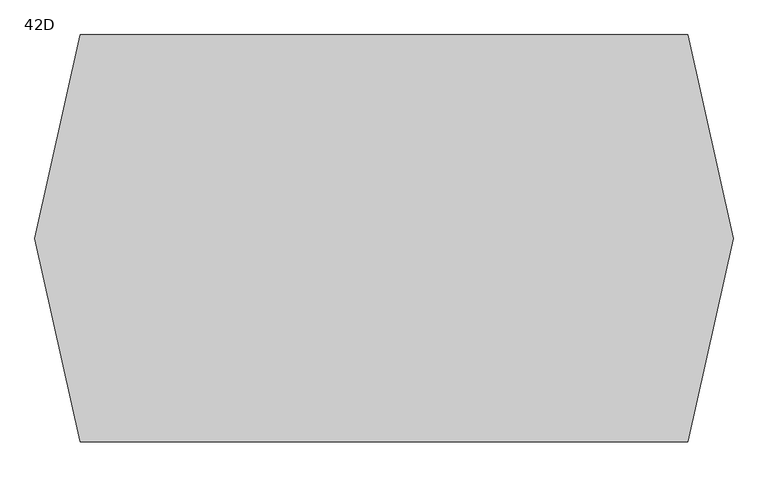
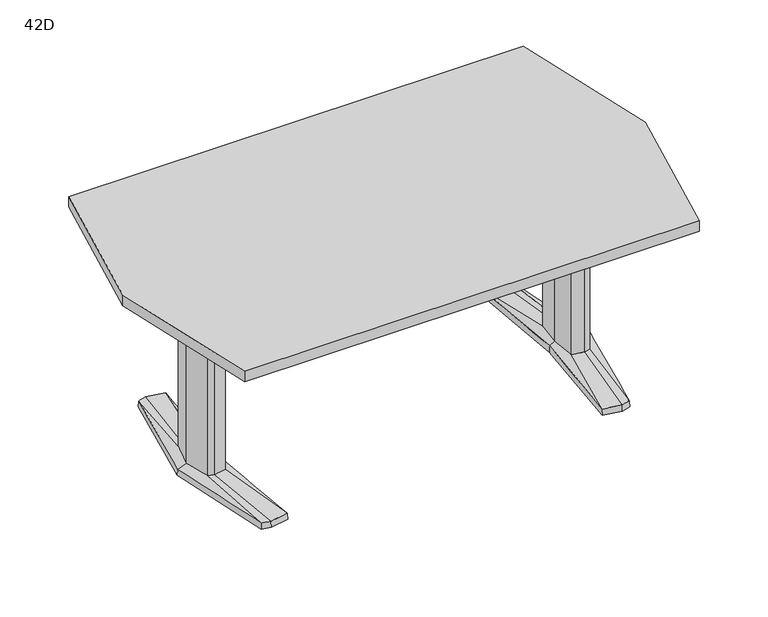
"""IFC4 building model written with IfcOpenShell, lengths in millimetres: furniture geometry, Coalesse_AM_Table_Conference_ETable2_Faceted_72in_AluminiumBase : 42D."""

from ifc_helpers import new_model, si_unit, frame, origin, place, context, project, spatial, polyline, outline, extrude, source, transform, mapped, element, save
from ifc_brep_helpers import plane_surface, spline_surface, advanced_brep


def furniture_42d_39f42cd1(model_context):
    return source(origin(), model_context, "Body", "SolidModel", [
        advanced_brep(
        [(614.8503471, -379.3768856, 25.4), (644.5756636, -371.5332654, 25.4), (668.2327243, -89.293702, 36.5125), (648.9795254, -94.605478, 36.5125), (606.0521001, -87.0529327, 36.5125), (551.7612538, -368.5071562, 25.4), (597.9364207, 0.0, 36.5125), (579.8389754, 0.3970149, 25.4), (606.0521001, 87.0529327, 36.5125), (551.7615002, 368.5172593, 25.4), (648.9795254, 94.605478, 36.5125), (614.8502233, 379.3769183, 25.4), (668.2327243, 89.293702, 36.5125), (644.7535458, 371.4863276, 25.4), (692.1595251, 0.0, 36.5125), (721.4851663, 0.0003516, 25.4), (578.2468742, 0.3968871, 3.175), (550.06875, 369.8367279, 3.175), (614.9213004, 381.0, 3.175), (646.1093245, 372.7704151, 3.175), (723.10625, 0.0, 3.175), (645.9309817, -372.8174744, 3.175), (614.9213004, -381.0, 3.175), (550.06875, -369.8264415, 3.175), (649.5979264, 107.6121478, 3.175), (594.3065451, 97.8843184, 3.175), (585.1810887, 0.0, 3.175), (594.3065451, -97.8843184, 3.175), (649.5979264, -107.6121478, 3.175), (678.6183473, -99.6056872, 3.175), (705.3083085, 0.0, 3.175), (678.6183473, 99.6056872, 3.175), (613.4286812, 346.9152841, 3.175), (557.7811371, 337.3364985, 3.175), (560.1889918, 324.8641942, 3.175), (612.8600644, 333.9306305, 3.175), (648.6725609, 324.4807859, 3.175), (647.5544526, 337.9105158, 3.175), (613.4286812, -346.9152841, 3.175), (647.5544526, -337.9105158, 3.175), (648.6725609, -324.4807859, 3.175), (612.8600644, -333.9306305, 3.175), (560.1889918, -324.8641942, 3.175), (557.7811371, -337.3364985, 3.175), (649.5979264, 107.6121478, 0.0), (678.6183473, 99.6056872, 0.0), (705.3083085, 0.0, 0.0), (678.6183473, -99.6056872, 0.0), (649.5979264, -107.6121478, 0.0), (594.3065451, -97.8843184, 0.0), (585.1810887, 0.0, 0.0), (594.3065451, 97.8843184, 0.0), (613.4286812, 346.9152841, 0.0), (647.5544526, 337.9105158, 0.0), (648.6725609, 324.4807859, 0.0), (612.8600644, 333.9306305, 0.0), (560.1889918, 324.8641942, 0.0), (557.7811371, 337.3364985, 0.0), (613.4286812, -346.9152841, 0.0), (557.7811371, -337.3364985, 0.0), (560.1889918, -324.8641942, 0.0), (612.8600644, -333.9306305, 0.0), (648.6725609, -324.4807859, 0.0), (647.5544526, -337.9105158, 0.0), (668.2327243, 89.293702, 698.5), (648.9795254, 94.605478, 698.5), (606.0521001, 87.0529327, 698.5), (597.9364207, 0.0, 698.5), (606.0521001, -87.0529327, 698.5), (648.9795254, -94.605478, 698.5), (668.2327243, -89.293702, 698.5), (692.1595251, 0.0, 698.5)],
        [
            (0, 1),
            (1, 2),
            (2, 3),
            (3, 0),
            (3, 4),
            (4, 5),
            (5, 0),
            (4, 6),
            (6, 7),
            (7, 5),
            (6, 8),
            (8, 9),
            (9, 7),
            (8, 10),
            (10, 11),
            (11, 9),
            (10, 12),
            (12, 13),
            (13, 11),
            (12, 14),
            (14, 15),
            (15, 13),
            (1, 15),
            (14, 2),
            (16, 17),
            (17, 18),
            (18, 19),
            (19, 20),
            (20, 21),
            (21, 22),
            (22, 23),
            (23, 16),
            (24, 25),
            (25, 26),
            (26, 27),
            (27, 28),
            (28, 29),
            (29, 30),
            (30, 31),
            (31, 24),
            (32, 33),
            (33, 34),
            (34, 35),
            (35, 36),
            (36, 37),
            (37, 32),
            (38, 39),
            (39, 40),
            (40, 41),
            (41, 42),
            (42, 43),
            (43, 38),
            (16, 7),
            (9, 17),
            (11, 18),
            (13, 19),
            (15, 20),
            (1, 21),
            (0, 22),
            (5, 23),
            (44, 45),
            (45, 46),
            (46, 47),
            (47, 48),
            (48, 49),
            (49, 50),
            (50, 51),
            (51, 44),
            (52, 53),
            (53, 54),
            (54, 55),
            (55, 56),
            (56, 57),
            (57, 52),
            (58, 59),
            (59, 60),
            (60, 61),
            (61, 62),
            (62, 63),
            (63, 58),
            (44, 24),
            (31, 45),
            (30, 46),
            (29, 47),
            (28, 48),
            (27, 49),
            (26, 50),
            (25, 51),
            (52, 32),
            (37, 53),
            (36, 54),
            (35, 55),
            (34, 56),
            (33, 57),
            (58, 38),
            (43, 59),
            (42, 60),
            (41, 61),
            (40, 62),
            (39, 63),
            (64, 65),
            (65, 66),
            (66, 67),
            (67, 68),
            (68, 69),
            (69, 70),
            (70, 71),
            (71, 64),
            (71, 14),
            (12, 64),
            (70, 2),
            (69, 3),
            (68, 4),
            (67, 6),
            (66, 8),
            (65, 10),
        ],
        [
            spline_surface(1, 1, [[(644.5756636, -371.5332654, 25.4), (614.8503471, -379.3768856, 25.4)], [(668.2327243, -89.293702, 36.5125), (648.9795254, -94.605478, 36.5125)]], [2, 2], [2, 2], [0.0, 1.0], [0.0, 1.0]),
            spline_surface(1, 1, [[(614.8503471, -379.3768856, 25.4), (551.7612538, -368.5071562, 25.4)], [(648.9795254, -94.605478, 36.5125), (606.0521001, -87.0529327, 36.5125)]], [2, 2], [2, 2], [0.0, 1.0], [0.0, 1.0]),
            spline_surface(1, 1, [[(551.7612538, -368.5071562, 25.4), (579.8389754, 0.3970149, 25.4)], [(606.0521001, -87.0529327, 36.5125), (597.9364207, 0.0, 36.5125)]], [2, 2], [2, 2], [0.0, 1.0], [0.0, 1.0]),
            spline_surface(1, 1, [[(579.8389754, 0.3970149, 25.4), (551.7615002, 368.5172593, 25.4)], [(597.9364207, 0.0, 36.5125), (606.0521001, 87.0529327, 36.5125)]], [2, 2], [2, 2], [0.0, 1.0], [0.0, 1.0]),
            spline_surface(1, 1, [[(551.7615002, 368.5172593, 25.4), (614.8502233, 379.3769183, 25.4)], [(606.0521001, 87.0529327, 36.5125), (648.9795254, 94.605478, 36.5125)]], [2, 2], [2, 2], [0.0, 1.0], [0.0, 1.0]),
            spline_surface(1, 1, [[(614.8502233, 379.3769183, 25.4), (644.7535458, 371.4863276, 25.4)], [(648.9795254, 94.605478, 36.5125), (668.2327243, 89.293702, 36.5125)]], [2, 2], [2, 2], [0.0, 1.0], [0.0, 1.0]),
            spline_surface(1, 1, [[(644.7535458, 371.4863276, 25.4), (721.4851663, 0.0003516, 25.4)], [(668.2327243, 89.293702, 36.5125), (692.1595251, 0.0, 36.5125)]], [2, 2], [2, 2], [0.0, 1.0], [0.0, 1.0]),
            spline_surface(1, 1, [[(721.4851663, 0.0003516, 25.4), (644.5756636, -371.5332654, 25.4)], [(692.1595251, 0.0, 36.5125), (668.2327243, -89.293702, 36.5125)]], [2, 2], [2, 2], [0.0, 1.0], [0.0, 1.0]),
            plane_surface(frame((615.4216914, 0.0450143, 3.175), z_axis=(0.0, 0.0, -1.0), x_axis=(-0.9669048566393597, -0.2551372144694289, 0.0))),
            plane_surface(frame((564.1578121, 185.1168075, 3.175), z_axis=(-0.9945699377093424, -0.07585840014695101, 0.0712470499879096), x_axis=(-0.07605167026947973, 0.9971038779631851, 0.0))),
            plane_surface(frame((582.4950252, 375.418364, 3.175), z_axis=(-0.1692071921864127, 0.9830019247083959, 0.07124704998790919), x_axis=(0.985506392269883, 0.16963829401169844, 0.0))),
            plane_surface(frame((630.5153124, 376.8852076, 3.175), z_axis=(0.2544888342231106, 0.9644476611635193, 0.07124704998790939), x_axis=(0.9669048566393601, -0.25513721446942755, 0.0))),
            plane_surface(frame((684.6077872, 186.3852076, 3.175), z_axis=(0.9768383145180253, 0.2017690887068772, 0.07124704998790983), x_axis=(0.20228315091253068, -0.9793270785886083, 0.0))),
            plane_surface(frame((684.5186158, -186.4087372, 3.175), z_axis=(0.9767507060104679, -0.20219276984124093, 0.07124704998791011), x_axis=(-0.2027079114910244, -0.9792392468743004, 0.0))),
            plane_surface(frame((630.426141, -376.9087372, 3.175), z_axis=(0.2544888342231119, -0.9644476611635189, 0.0712470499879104), x_axis=(-0.9669048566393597, -0.2551372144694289, 0.0))),
            plane_surface(frame((582.4950252, -375.4132207, 3.175), z_axis=(-0.16935861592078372, -0.982975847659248, 0.07124704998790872), x_axis=(-0.9854802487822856, 0.16979010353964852, 0.0))),
            plane_surface(frame((564.1578121, -184.7147772, 3.175), z_axis=(-0.9945820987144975, 0.07569878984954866, 0.07124704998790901), x_axis=(0.07589165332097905, 0.9971160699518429, 0.0))),
            plane_surface(frame((652.3571479, 106.8509046, 0.0), z_axis=(0.0, 0.0, -1.0000000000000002), x_axis=(-0.9639855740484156, 0.26595453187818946, 0.0))),
            plane_surface(frame((649.5979264, 107.6121478, 3.175), z_axis=(0.26595453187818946, 0.9639855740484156, 0.0), x_axis=(0.0, 0.0, -1.0))),
            plane_surface(frame((678.6183473, 99.6056872, 3.175), z_axis=(0.9659241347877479, 0.2588253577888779, 0.0), x_axis=(0.0, 0.0, -1.0))),
            plane_surface(frame((705.3083085, 0.0, 3.175), z_axis=(0.9659241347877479, -0.2588253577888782, 0.0), x_axis=(0.0, 0.0, -1.0))),
            plane_surface(frame((678.6183473, -99.6056872, 3.175), z_axis=(0.26595453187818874, -0.9639855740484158, 0.0), x_axis=(0.0, 0.0, -1.0))),
            plane_surface(frame((649.5979264, -107.6121478, 3.175), z_axis=(-0.17327617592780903, -0.9848732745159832, 0.0), x_axis=(0.0, 0.0, -1.0))),
            plane_surface(frame((594.3065451, -97.8843184, 3.175), z_axis=(-0.9956824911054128, -0.0928244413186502, 0.0), x_axis=(0.0, 0.0, -1.0))),
            plane_surface(frame((585.1810887, 0.0, 3.175), z_axis=(-0.9956824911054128, 0.09282444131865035, 0.0), x_axis=(0.0, 0.0, -1.0))),
            plane_surface(frame((594.3065451, 97.8843184, 3.175), z_axis=(-0.17327617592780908, 0.984873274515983, 0.0), x_axis=(0.0, 0.0, -1.0))),
            plane_surface(frame((613.4286812, 346.9152841, 3.175), z_axis=(0.25513721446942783, 0.9669048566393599, 0.0), x_axis=(0.0, 0.0, -1.0))),
            plane_surface(frame((647.5544526, 337.9105158, 3.175), z_axis=(0.9965521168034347, 0.0829691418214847, 0.0), x_axis=(0.0, 0.0, -1.0))),
            plane_surface(frame((648.6725609, 324.4807859, 3.175), z_axis=(-0.25513721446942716, -0.9669048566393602, 0.0), x_axis=(0.0, 0.0, -1.0))),
            plane_surface(frame((612.8600644, 333.9306305, 3.175), z_axis=(0.16963829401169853, -0.985506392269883, 0.0), x_axis=(0.0, 0.0, -1.0))),
            plane_surface(frame((560.1889918, 324.8641942, 3.175), z_axis=(-0.9818699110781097, -0.18955600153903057, 0.0), x_axis=(0.0, 0.0, -1.0))),
            plane_surface(frame((557.7811371, 337.3364985, 3.175), z_axis=(-0.16963829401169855, 0.9855063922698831, 0.0), x_axis=(0.0, 0.0, -1.0))),
            plane_surface(frame((613.4286812, -346.9152841, 3.175), z_axis=(-0.1696382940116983, -0.9855063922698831, 0.0), x_axis=(0.0, 0.0, -1.0))),
            plane_surface(frame((557.7811371, -337.3364985, 3.175), z_axis=(-0.9818699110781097, 0.18955600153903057, 0.0), x_axis=(0.0, 0.0, -1.0))),
            plane_surface(frame((560.1889918, -324.8641942, 3.175), z_axis=(0.16963829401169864, 0.985506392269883, 0.0), x_axis=(0.0, 0.0, -1.0))),
            plane_surface(frame((612.8600644, -333.9306305, 3.175), z_axis=(-0.2551372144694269, 0.9669048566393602, 0.0), x_axis=(0.0, 0.0, -1.0))),
            plane_surface(frame((648.6725609, -324.4807859, 3.175), z_axis=(0.9965521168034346, -0.0829691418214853, 0.0), x_axis=(0.0, 0.0, -1.0))),
            plane_surface(frame((647.5544526, -337.9105158, 3.175), z_axis=(0.2551372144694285, -0.9669048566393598, 0.0), x_axis=(0.0, 0.0, -1.0))),
            plane_surface(frame((692.1595251, 0.0, 698.5), z_axis=(0.0, 0.0, 1.0), x_axis=(0.25882535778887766, -0.965924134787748, 0.0))),
            plane_surface(frame((668.2327243, 89.293702, 698.5), z_axis=(0.965924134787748, 0.25882535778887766, 0.0), x_axis=(0.0, 0.0, -1.0))),
            plane_surface(frame((692.1595251, 0.0, 698.5), z_axis=(0.965924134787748, -0.2588253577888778, 0.0), x_axis=(0.0, 0.0, -1.0))),
            plane_surface(frame((668.2327243, -89.293702, 698.5), z_axis=(0.2659545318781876, -0.963985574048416, 0.0), x_axis=(0.0, 0.0, -1.0))),
            plane_surface(frame((648.9795254, -94.605478, 698.5), z_axis=(-0.1732761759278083, -0.9848732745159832, 0.0), x_axis=(0.0, 0.0, -1.0))),
            plane_surface(frame((606.0521001, -87.0529327, 698.5), z_axis=(-0.9956824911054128, -0.0928244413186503, 0.0), x_axis=(0.0, 0.0, -1.0))),
            plane_surface(frame((597.9364207, 0.0, 698.5), z_axis=(-0.9956824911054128, 0.09282444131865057, 0.0), x_axis=(0.0, 0.0, -1.0))),
            plane_surface(frame((606.0521001, 87.0529327, 698.5), z_axis=(-0.17327617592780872, 0.9848732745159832, 0.0), x_axis=(0.0, 0.0, -1.0))),
            plane_surface(frame((648.9795254, 94.605478, 698.5), z_axis=(0.26595453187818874, 0.9639855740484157, 0.0), x_axis=(0.0, 0.0, -1.0))),
        ],
        [
            (0, [[1, 2, 3, 4]]),
            (1, [[5, 6, 7, -4]]),
            (2, [[8, 9, 10, -6]]),
            (3, [[11, 12, 13, -9]]),
            (4, [[14, 15, 16, -12]]),
            (5, [[17, 18, 19, -15]]),
            (6, [[20, 21, 22, -18]]),
            (7, [[23, -21, 24, -2]]),
            (8, [[25, 26, 27, 28, 29, 30, 31, 32], [33, 34, 35, 36, 37, 38, 39, 40], [41, 42, 43, 44, 45, 46], [47, 48, 49, 50, 51, 52]]),
            (9, [[53, -13, 54, -25]]),
            (10, [[-54, -16, 55, -26]]),
            (11, [[-55, -19, 56, -27]]),
            (12, [[-56, -22, 57, -28]]),
            (13, [[-57, -23, 58, -29]]),
            (14, [[-58, -1, 59, -30]]),
            (15, [[-59, -7, 60, -31]]),
            (16, [[-60, -10, -53, -32]]),
            (17, [[61, 62, 63, 64, 65, 66, 67, 68]]),
            (17, [[69, 70, 71, 72, 73, 74]]),
            (17, [[75, 76, 77, 78, 79, 80]]),
            (18, [[81, -40, 82, -61]]),
            (19, [[-82, -39, 83, -62]]),
            (20, [[-83, -38, 84, -63]]),
            (21, [[-84, -37, 85, -64]]),
            (22, [[-85, -36, 86, -65]]),
            (23, [[-86, -35, 87, -66]]),
            (24, [[-87, -34, 88, -67]]),
            (25, [[-88, -33, -81, -68]]),
            (26, [[89, -46, 90, -69]]),
            (27, [[-90, -45, 91, -70]]),
            (28, [[-91, -44, 92, -71]]),
            (29, [[-92, -43, 93, -72]]),
            (30, [[-93, -42, 94, -73]]),
            (31, [[-94, -41, -89, -74]]),
            (32, [[95, -52, 96, -75]]),
            (33, [[-96, -51, 97, -76]]),
            (34, [[-97, -50, 98, -77]]),
            (35, [[-98, -49, 99, -78]]),
            (36, [[-99, -48, 100, -79]]),
            (37, [[-100, -47, -95, -80]]),
            (38, [[101, 102, 103, 104, 105, 106, 107, 108]]),
            (39, [[109, -20, 110, -108]]),
            (40, [[111, -24, -109, -107]]),
            (41, [[112, -3, -111, -106]]),
            (42, [[113, -5, -112, -105]]),
            (43, [[114, -8, -113, -104]]),
            (44, [[115, -11, -114, -103]]),
            (45, [[116, -14, -115, -102]]),
            (46, [[-110, -17, -116, -101]]),
        ],
    ),
        advanced_brep(
        [(-614.8503471, -379.3768856, 25.4), (-648.9795254, -94.605478, 36.5125), (-668.2327243, -89.293702, 36.5125), (-644.5756636, -371.5332654, 25.4), (-551.7612538, -368.5071562, 25.4), (-606.0521001, -87.0529327, 36.5125), (-579.8389754, 0.3970149, 25.4), (-597.9364207, 0.0, 36.5125), (-551.7615002, 368.5172593, 25.4), (-606.0521001, 87.0529327, 36.5125), (-614.8502233, 379.3769183, 25.4), (-648.9795254, 94.605478, 36.5125), (-644.7535458, 371.4863276, 25.4), (-668.2327243, 89.293702, 36.5125), (-721.4851663, 0.0003516, 25.4), (-692.1595251, 0.0, 36.5125), (-578.2468742, 0.3968871, 3.175), (-550.06875, -369.8264415, 3.175), (-614.9213004, -381.0, 3.175), (-645.9309817, -372.8174744, 3.175), (-723.10625, 0.0, 3.175), (-646.1093245, 372.7704151, 3.175), (-614.9213004, 381.0, 3.175), (-550.06875, 369.8367279, 3.175), (-649.5979264, 107.6121478, 3.175), (-678.6183473, 99.6056872, 3.175), (-705.3083085, 0.0, 3.175), (-678.6183473, -99.6056872, 3.175), (-649.5979264, -107.6121478, 3.175), (-594.3065451, -97.8843184, 3.175), (-585.1810887, 0.0, 3.175), (-594.3065451, 97.8843184, 3.175), (-613.4286812, 346.9152841, 3.175), (-647.5544526, 337.9105158, 3.175), (-648.6725609, 324.4807859, 3.175), (-612.8600644, 333.9306305, 3.175), (-560.1889918, 324.8641942, 3.175), (-557.7811371, 337.3364985, 3.175), (-613.4286812, -346.9152841, 3.175), (-557.7811371, -337.3364985, 3.175), (-560.1889918, -324.8641942, 3.175), (-612.8600644, -333.9306305, 3.175), (-648.6725609, -324.4807859, 3.175), (-647.5544526, -337.9105158, 3.175), (-649.5979264, 107.6121478, 0.0), (-594.3065451, 97.8843184, 0.0), (-585.1810887, 0.0, 0.0), (-594.3065451, -97.8843184, 0.0), (-649.5979264, -107.6121478, 0.0), (-678.6183473, -99.6056872, 0.0), (-705.3083085, 0.0, 0.0), (-678.6183473, 99.6056872, 0.0), (-613.4286812, 346.9152841, 0.0), (-557.7811371, 337.3364985, 0.0), (-560.1889918, 324.8641942, 0.0), (-612.8600644, 333.9306305, 0.0), (-648.6725609, 324.4807859, 0.0), (-647.5544526, 337.9105158, 0.0), (-613.4286812, -346.9152841, 0.0), (-647.5544526, -337.9105158, 0.0), (-648.6725609, -324.4807859, 0.0), (-612.8600644, -333.9306305, 0.0), (-560.1889918, -324.8641942, 0.0), (-557.7811371, -337.3364985, 0.0), (-668.2327243, 89.293702, 698.5), (-692.1595251, 0.0, 698.5), (-668.2327243, -89.293702, 698.5), (-648.9795254, -94.605478, 698.5), (-606.0521001, -87.0529327, 698.5), (-597.9364207, 0.0, 698.5), (-606.0521001, 87.0529327, 698.5), (-648.9795254, 94.605478, 698.5)],
        [
            (0, 1),
            (1, 2),
            (2, 3),
            (3, 0),
            (0, 4),
            (4, 5),
            (5, 1),
            (4, 6),
            (6, 7),
            (7, 5),
            (6, 8),
            (8, 9),
            (9, 7),
            (8, 10),
            (10, 11),
            (11, 9),
            (10, 12),
            (12, 13),
            (13, 11),
            (12, 14),
            (14, 15),
            (15, 13),
            (2, 15),
            (14, 3),
            (16, 17),
            (17, 18),
            (18, 19),
            (19, 20),
            (20, 21),
            (21, 22),
            (22, 23),
            (23, 16),
            (24, 25),
            (25, 26),
            (26, 27),
            (27, 28),
            (28, 29),
            (29, 30),
            (30, 31),
            (31, 24),
            (32, 33),
            (33, 34),
            (34, 35),
            (35, 36),
            (36, 37),
            (37, 32),
            (38, 39),
            (39, 40),
            (40, 41),
            (41, 42),
            (42, 43),
            (43, 38),
            (23, 8),
            (6, 16),
            (22, 10),
            (21, 12),
            (20, 14),
            (19, 3),
            (18, 0),
            (17, 4),
            (44, 45),
            (45, 46),
            (46, 47),
            (47, 48),
            (48, 49),
            (49, 50),
            (50, 51),
            (51, 44),
            (52, 53),
            (53, 54),
            (54, 55),
            (55, 56),
            (56, 57),
            (57, 52),
            (58, 59),
            (59, 60),
            (60, 61),
            (61, 62),
            (62, 63),
            (63, 58),
            (51, 25),
            (24, 44),
            (50, 26),
            (49, 27),
            (48, 28),
            (47, 29),
            (46, 30),
            (45, 31),
            (57, 33),
            (32, 52),
            (56, 34),
            (55, 35),
            (54, 36),
            (53, 37),
            (63, 39),
            (38, 58),
            (62, 40),
            (61, 41),
            (60, 42),
            (59, 43),
            (64, 65),
            (65, 66),
            (66, 67),
            (67, 68),
            (68, 69),
            (69, 70),
            (70, 71),
            (71, 64),
            (64, 13),
            (15, 65),
            (2, 66),
            (1, 67),
            (5, 68),
            (7, 69),
            (9, 70),
            (11, 71),
        ],
        [
            spline_surface(1, 1, [[(-644.5756636, -371.5332654, 25.4), (-668.2327243, -89.293702, 36.5125)], [(-614.8503471, -379.3768856, 25.4), (-648.9795254, -94.605478, 36.5125)]], [2, 2], [2, 2], [0.0, 1.0], [0.0, 1.0]),
            spline_surface(1, 1, [[(-614.8503471, -379.3768856, 25.4), (-648.9795254, -94.605478, 36.5125)], [(-551.7612538, -368.5071562, 25.4), (-606.0521001, -87.0529327, 36.5125)]], [2, 2], [2, 2], [0.0, 1.0], [0.0, 1.0]),
            spline_surface(1, 1, [[(-551.7612538, -368.5071562, 25.4), (-606.0521001, -87.0529327, 36.5125)], [(-579.8389754, 0.3970149, 25.4), (-597.9364207, 0.0, 36.5125)]], [2, 2], [2, 2], [0.0, 1.0], [0.0, 1.0]),
            spline_surface(1, 1, [[(-579.8389754, 0.3970149, 25.4), (-597.9364207, 0.0, 36.5125)], [(-551.7615002, 368.5172593, 25.4), (-606.0521001, 87.0529327, 36.5125)]], [2, 2], [2, 2], [0.0, 1.0], [0.0, 1.0]),
            spline_surface(1, 1, [[(-551.7615002, 368.5172593, 25.4), (-606.0521001, 87.0529327, 36.5125)], [(-614.8502233, 379.3769183, 25.4), (-648.9795254, 94.605478, 36.5125)]], [2, 2], [2, 2], [0.0, 1.0], [0.0, 1.0]),
            spline_surface(1, 1, [[(-614.8502233, 379.3769183, 25.4), (-648.9795254, 94.605478, 36.5125)], [(-644.7535458, 371.4863276, 25.4), (-668.2327243, 89.293702, 36.5125)]], [2, 2], [2, 2], [0.0, 1.0], [0.0, 1.0]),
            spline_surface(1, 1, [[(-644.7535458, 371.4863276, 25.4), (-668.2327243, 89.293702, 36.5125)], [(-721.4851663, 0.0003516, 25.4), (-692.1595251, 0.0, 36.5125)]], [2, 2], [2, 2], [0.0, 1.0], [0.0, 1.0]),
            spline_surface(1, 1, [[(-721.4851663, 0.0003516, 25.4), (-692.1595251, 0.0, 36.5125)], [(-644.5756636, -371.5332654, 25.4), (-668.2327243, -89.293702, 36.5125)]], [2, 2], [2, 2], [0.0, 1.0], [0.0, 1.0]),
            plane_surface(frame((-615.4216914, 0.0450143, 3.175), z_axis=(0.0, 0.0, -1.0), x_axis=(0.9669048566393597, -0.2551372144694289, 0.0))),
            plane_surface(frame((-564.1578121, 185.1168075, 3.175), z_axis=(0.9945699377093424, -0.07585840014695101, 0.0712470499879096), x_axis=(0.07605167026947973, 0.9971038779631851, 0.0))),
            plane_surface(frame((-582.4950252, 375.418364, 3.175), z_axis=(0.1692071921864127, 0.9830019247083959, 0.07124704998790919), x_axis=(-0.985506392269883, 0.16963829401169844, 0.0))),
            plane_surface(frame((-630.5153124, 376.8852076, 3.175), z_axis=(-0.2544888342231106, 0.9644476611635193, 0.07124704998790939), x_axis=(-0.9669048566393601, -0.25513721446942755, 0.0))),
            plane_surface(frame((-684.6077872, 186.3852076, 3.175), z_axis=(-0.9768383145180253, 0.2017690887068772, 0.07124704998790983), x_axis=(-0.20228315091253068, -0.9793270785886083, 0.0))),
            plane_surface(frame((-684.5186158, -186.4087372, 3.175), z_axis=(-0.9767507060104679, -0.20219276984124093, 0.07124704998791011), x_axis=(0.2027079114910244, -0.9792392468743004, 0.0))),
            plane_surface(frame((-630.426141, -376.9087372, 3.175), z_axis=(-0.2544888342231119, -0.9644476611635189, 0.0712470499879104), x_axis=(0.9669048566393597, -0.2551372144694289, 0.0))),
            plane_surface(frame((-582.4950252, -375.4132207, 3.175), z_axis=(0.16935861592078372, -0.982975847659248, 0.07124704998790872), x_axis=(0.9854802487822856, 0.16979010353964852, 0.0))),
            plane_surface(frame((-564.1578121, -184.7147772, 3.175), z_axis=(0.9945820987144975, 0.07569878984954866, 0.07124704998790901), x_axis=(-0.07589165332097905, 0.9971160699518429, 0.0))),
            plane_surface(frame((-652.3571479, 106.8509046, 0.0), z_axis=(0.0, 0.0, -1.0000000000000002), x_axis=(0.9639855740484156, 0.26595453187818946, 0.0))),
            plane_surface(frame((-649.5979264, 107.6121478, 3.175), z_axis=(-0.26595453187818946, 0.9639855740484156, 0.0), x_axis=(0.0, 0.0, -1.0))),
            plane_surface(frame((-678.6183473, 99.6056872, 3.175), z_axis=(-0.9659241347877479, 0.2588253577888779, 0.0), x_axis=(0.0, 0.0, -1.0))),
            plane_surface(frame((-705.3083085, 0.0, 3.175), z_axis=(-0.9659241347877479, -0.2588253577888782, 0.0), x_axis=(0.0, 0.0, -1.0))),
            plane_surface(frame((-678.6183473, -99.6056872, 3.175), z_axis=(-0.26595453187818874, -0.9639855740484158, 0.0), x_axis=(0.0, 0.0, -1.0))),
            plane_surface(frame((-649.5979264, -107.6121478, 3.175), z_axis=(0.17327617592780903, -0.9848732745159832, 0.0), x_axis=(0.0, 0.0, -1.0))),
            plane_surface(frame((-594.3065451, -97.8843184, 3.175), z_axis=(0.9956824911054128, -0.0928244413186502, 0.0), x_axis=(0.0, 0.0, -1.0))),
            plane_surface(frame((-585.1810887, 0.0, 3.175), z_axis=(0.9956824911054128, 0.09282444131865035, 0.0), x_axis=(0.0, 0.0, -1.0))),
            plane_surface(frame((-594.3065451, 97.8843184, 3.175), z_axis=(0.17327617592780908, 0.984873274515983, 0.0), x_axis=(0.0, 0.0, -1.0))),
            plane_surface(frame((-613.4286812, 346.9152841, 3.175), z_axis=(-0.25513721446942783, 0.9669048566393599, 0.0), x_axis=(0.0, 0.0, -1.0))),
            plane_surface(frame((-647.5544526, 337.9105158, 3.175), z_axis=(-0.9965521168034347, 0.0829691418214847, 0.0), x_axis=(0.0, 0.0, -1.0))),
            plane_surface(frame((-648.6725609, 324.4807859, 3.175), z_axis=(0.25513721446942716, -0.9669048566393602, 0.0), x_axis=(0.0, 0.0, -1.0))),
            plane_surface(frame((-612.8600644, 333.9306305, 3.175), z_axis=(-0.16963829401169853, -0.985506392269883, 0.0), x_axis=(0.0, 0.0, -1.0))),
            plane_surface(frame((-560.1889918, 324.8641942, 3.175), z_axis=(0.9818699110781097, -0.18955600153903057, 0.0), x_axis=(0.0, 0.0, -1.0))),
            plane_surface(frame((-557.7811371, 337.3364985, 3.175), z_axis=(0.16963829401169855, 0.9855063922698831, 0.0), x_axis=(0.0, 0.0, -1.0))),
            plane_surface(frame((-613.4286812, -346.9152841, 3.175), z_axis=(0.1696382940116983, -0.9855063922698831, 0.0), x_axis=(0.0, 0.0, -1.0))),
            plane_surface(frame((-557.7811371, -337.3364985, 3.175), z_axis=(0.9818699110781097, 0.18955600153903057, 0.0), x_axis=(0.0, 0.0, -1.0))),
            plane_surface(frame((-560.1889918, -324.8641942, 3.175), z_axis=(-0.16963829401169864, 0.985506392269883, 0.0), x_axis=(0.0, 0.0, -1.0))),
            plane_surface(frame((-612.8600644, -333.9306305, 3.175), z_axis=(0.2551372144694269, 0.9669048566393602, 0.0), x_axis=(0.0, 0.0, -1.0))),
            plane_surface(frame((-648.6725609, -324.4807859, 3.175), z_axis=(-0.9965521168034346, -0.0829691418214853, 0.0), x_axis=(0.0, 0.0, -1.0))),
            plane_surface(frame((-647.5544526, -337.9105158, 3.175), z_axis=(-0.2551372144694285, -0.9669048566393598, 0.0), x_axis=(0.0, 0.0, -1.0))),
            plane_surface(frame((-692.1595251, 0.0, 698.5), z_axis=(0.0, 0.0, 1.0), x_axis=(-0.25882535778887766, -0.965924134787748, 0.0))),
            plane_surface(frame((-668.2327243, 89.293702, 698.5), z_axis=(-0.965924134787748, 0.25882535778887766, 0.0), x_axis=(0.0, 0.0, -1.0))),
            plane_surface(frame((-692.1595251, 0.0, 698.5), z_axis=(-0.965924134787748, -0.2588253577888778, 0.0), x_axis=(0.0, 0.0, -1.0))),
            plane_surface(frame((-668.2327243, -89.293702, 698.5), z_axis=(-0.2659545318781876, -0.963985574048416, 0.0), x_axis=(0.0, 0.0, -1.0))),
            plane_surface(frame((-648.9795254, -94.605478, 698.5), z_axis=(0.1732761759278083, -0.9848732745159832, 0.0), x_axis=(0.0, 0.0, -1.0))),
            plane_surface(frame((-606.0521001, -87.0529327, 698.5), z_axis=(0.9956824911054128, -0.0928244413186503, 0.0), x_axis=(0.0, 0.0, -1.0))),
            plane_surface(frame((-597.9364207, 0.0, 698.5), z_axis=(0.9956824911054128, 0.09282444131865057, 0.0), x_axis=(0.0, 0.0, -1.0))),
            plane_surface(frame((-606.0521001, 87.0529327, 698.5), z_axis=(0.17327617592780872, 0.9848732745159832, 0.0), x_axis=(0.0, 0.0, -1.0))),
            plane_surface(frame((-648.9795254, 94.605478, 698.5), z_axis=(-0.26595453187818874, 0.9639855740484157, 0.0), x_axis=(0.0, 0.0, -1.0))),
        ],
        [
            (0, [[1, 2, 3, 4]]),
            (1, [[-1, 5, 6, 7]]),
            (2, [[-6, 8, 9, 10]]),
            (3, [[-9, 11, 12, 13]]),
            (4, [[-12, 14, 15, 16]]),
            (5, [[-15, 17, 18, 19]]),
            (6, [[-18, 20, 21, 22]]),
            (7, [[-3, 23, -21, 24]]),
            (8, [[25, 26, 27, 28, 29, 30, 31, 32], [33, 34, 35, 36, 37, 38, 39, 40], [41, 42, 43, 44, 45, 46], [47, 48, 49, 50, 51, 52]]),
            (9, [[-32, 53, -11, 54]]),
            (10, [[-31, 55, -14, -53]]),
            (11, [[-30, 56, -17, -55]]),
            (12, [[-29, 57, -20, -56]]),
            (13, [[-28, 58, -24, -57]]),
            (14, [[-27, 59, -4, -58]]),
            (15, [[-26, 60, -5, -59]]),
            (16, [[-25, -54, -8, -60]]),
            (17, [[61, 62, 63, 64, 65, 66, 67, 68]]),
            (17, [[69, 70, 71, 72, 73, 74]]),
            (17, [[75, 76, 77, 78, 79, 80]]),
            (18, [[-68, 81, -33, 82]]),
            (19, [[-67, 83, -34, -81]]),
            (20, [[-66, 84, -35, -83]]),
            (21, [[-65, 85, -36, -84]]),
            (22, [[-64, 86, -37, -85]]),
            (23, [[-63, 87, -38, -86]]),
            (24, [[-62, 88, -39, -87]]),
            (25, [[-61, -82, -40, -88]]),
            (26, [[-74, 89, -41, 90]]),
            (27, [[-73, 91, -42, -89]]),
            (28, [[-72, 92, -43, -91]]),
            (29, [[-71, 93, -44, -92]]),
            (30, [[-70, 94, -45, -93]]),
            (31, [[-69, -90, -46, -94]]),
            (32, [[-80, 95, -47, 96]]),
            (33, [[-79, 97, -48, -95]]),
            (34, [[-78, 98, -49, -97]]),
            (35, [[-77, 99, -50, -98]]),
            (36, [[-76, 100, -51, -99]]),
            (37, [[-75, -96, -52, -100]]),
            (38, [[101, 102, 103, 104, 105, 106, 107, 108]]),
            (39, [[-101, 109, -22, 110]]),
            (40, [[-102, -110, -23, 111]]),
            (41, [[-103, -111, -2, 112]]),
            (42, [[-104, -112, -7, 113]]),
            (43, [[-105, -113, -10, 114]]),
            (44, [[-106, -114, -13, 115]]),
            (45, [[-107, -115, -16, 116]]),
            (46, [[-108, -116, -19, -109]]),
        ],
    ),
        extrude(outline(polyline([(96.8375, 698.5), (103.1875, 698.5), (103.1875, 476.25), (-103.1875, 476.25), (-103.1875, 698.5), (-96.8375, 698.5), (-96.8375, 482.6), (96.8375, 482.6), (96.8375, 698.5)])), frame((-597.9364207, 0.0, 0.0), z_axis=(1.0, 0.0, 0.0), x_axis=(0.0, 1.0, 0.0)), (0.0, 0.0, 1.0), 1195.8728415),
        extrude(outline(polyline([(796.147407, 533.4), (914.4, 0.0), (796.147407, -533.4), (-796.147407, -533.4), (-914.4, 0.0), (-796.147407, 533.4), (796.147407, 533.4)])), frame((0.0, 0.0, 698.5), z_axis=(0.0, 0.0, 1.0), x_axis=(1.0, 0.0, 0.0)), (0.0, 0.0, 1.0), 38.1),
    ])


if __name__ == "__main__":
    model = new_model("IFC4")
    model_context = context("Model", 3, world=origin())
    ifc_project = project(units=[si_unit("LENGTHUNIT", "METRE", prefix="MILLI")], contexts=[model_context])
    site = spatial("IfcSite", under=ifc_project)
    building = spatial("IfcBuilding", under=site)
    placement = place(None, origin())
    furniture_42d_shape = furniture_42d_39f42cd1(model_context)
    element("IfcFurniture", 1, ObjectType="Coalesse_AM_Table_Conference_ETable2_Faceted_72in_AluminiumBase : 42D", at=placement, inside=building, context=model_context, shape_type="MappedRepresentation", body=[
        mapped(furniture_42d_shape, transform((0.0, 0.0, 0.0), x_axis=(1.0, 0.0, 0.0), y_axis=(0.0, 1.0, 0.0), z_axis=(0.0, 0.0, 1.0))),
    ])
    save(model, "model.ifc")
